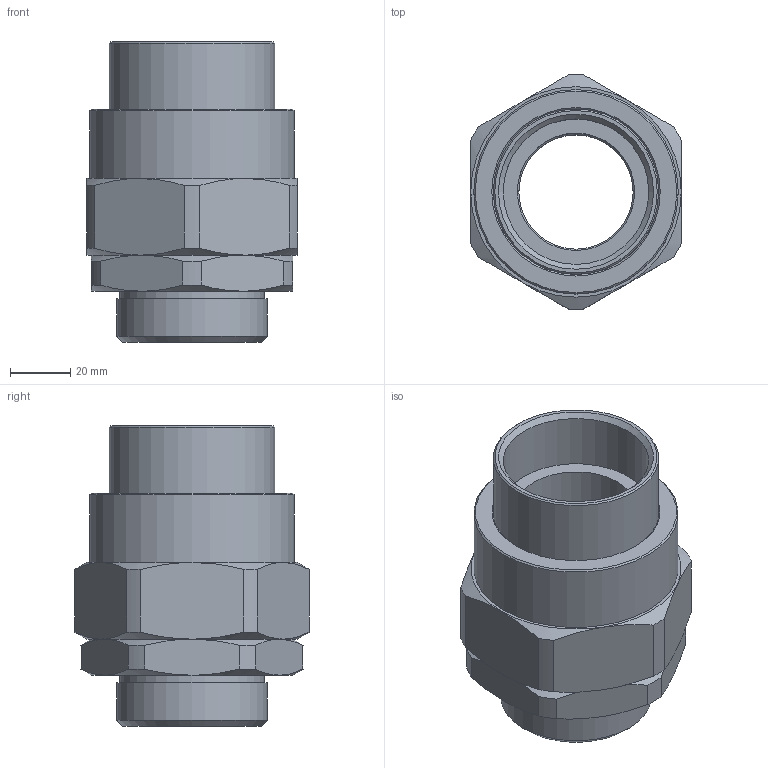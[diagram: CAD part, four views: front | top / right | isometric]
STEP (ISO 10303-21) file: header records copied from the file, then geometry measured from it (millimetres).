
FILE_DESCRIPTION((''),'2;1');
FILE_NAME('C:\_Action\Готовые чертежи\2021\_05_21\тз65313\TCBHA5MН.stp','2021-05-13T10:27:07',('Yu.F.Turkin'),(''),'Autodesk Inventor 2012','Autodesk Inventor 2012','');
FILE_SCHEMA(('AUTOMOTIVE_DESIGN { 1 0 10303 214 1 1 1 1 }'));
Length unit declared in the file: millimetre
Products named in the file (5): TCBHA5MН; Корпус TCBHA5MS; Гайка TCBHA5_S; Штуцер F TCBHA5MS; Уплотнение TCBHA5_
Assembly tree (4 placements, depth 2):
  TCBHA5MН
    Корпус TCBHA5MS
    Гайка TCBHA5_S
    Штуцер F TCBHA5MS
    Уплотнение TCBHA5_
Bounding box: 70 x 77.98 x 100 mm (x, y, z)
Volume: 195494.2 mm3; surface area: 65205.5 mm2
Topology: 4 solids, 4 shells, 105 faces, 236 edges, 145 vertices
Faces by surface type: plane 38, cone 35, cylinder 31, torus 1
Full cylindrical faces by diameter (mm): 38 x1, 39 x1, 44 x1, 48 x1, 48.376 x1, 50 x1, 55 x2, 62 x1, 62.1 x1, 62.376 x1, 64 x1, 68 x1
Entity records: 2967 total; most frequent: CARTESIAN_POINT 552, DIRECTION 486, ORIENTED_EDGE 408, AXIS2_PLACEMENT_3D 216, EDGE_CURVE 204, EDGE_LOOP 144, VERTEX_POINT 138, STYLED_ITEM 109
